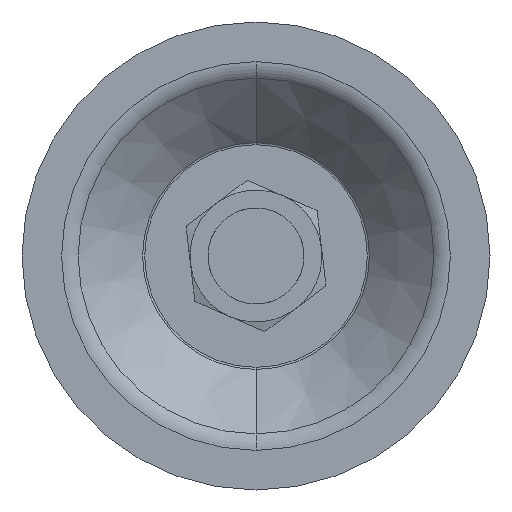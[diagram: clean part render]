
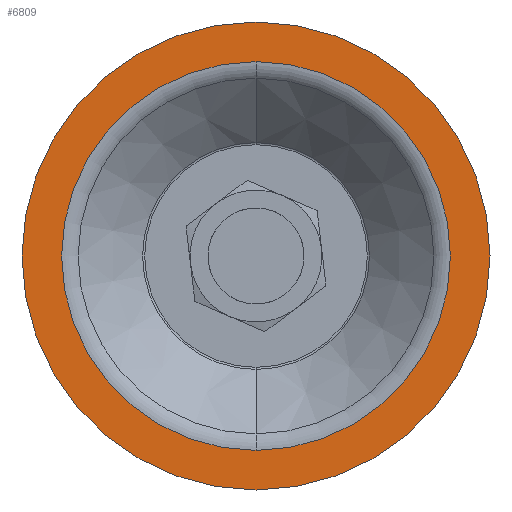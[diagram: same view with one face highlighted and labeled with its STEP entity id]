
A CAD part, front view. The second image highlights one B-rep face of the part: STEP entity #6809.
In plain terms, the highlighted planar face has unit normal (0, -1, 0).
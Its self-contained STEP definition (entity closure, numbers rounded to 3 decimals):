
#86 = VERTEX_POINT ( 'NONE', #5394 ) ;
#138 = DIRECTION ( 'NONE',  ( 0., 0., 1. ) ) ;
#216 = PLANE ( 'NONE',  #7204 ) ;
#451 = EDGE_CURVE ( 'NONE', #86, #1538, #1650, .T. ) ;
#463 = VERTEX_POINT ( 'NONE', #1590 ) ;
#834 = CARTESIAN_POINT ( 'NONE',  ( 0., 0., 0. ) ) ;
#959 = AXIS2_PLACEMENT_3D ( 'NONE', #4967, #6277, #138 ) ;
#1538 = VERTEX_POINT ( 'NONE', #4410 ) ;
#1590 = CARTESIAN_POINT ( 'NONE',  ( 0., 0., -39. ) ) ;
#1650 = CIRCLE ( 'NONE', #2678, 32.401 ) ;
#1736 = CARTESIAN_POINT ( 'NONE',  ( 0., 0., 0. ) ) ;
#2021 = EDGE_LOOP ( 'NONE', ( #3762, #5271 ) ) ;
#2286 = DIRECTION ( 'NONE',  ( 0., 1., 0. ) ) ;
#2678 = AXIS2_PLACEMENT_3D ( 'NONE', #4589, #2810, #7604 ) ;
#2810 = DIRECTION ( 'NONE',  ( 0., 1., 0. ) ) ;
#2890 = CIRCLE ( 'NONE', #959, 32.401 ) ;
#3117 = EDGE_LOOP ( 'NONE', ( #6961, #4525 ) ) ;
#3236 = CARTESIAN_POINT ( 'NONE',  ( 0., 0., 39. ) ) ;
#3470 = CIRCLE ( 'NONE', #4922, 39. ) ;
#3591 = DIRECTION ( 'NONE',  ( 0., 1., 0. ) ) ;
#3713 = EDGE_CURVE ( 'NONE', #463, #6294, #6034, .T. ) ;
#3762 = ORIENTED_EDGE ( 'NONE', *, *, #6894, .F. ) ;
#3836 = DIRECTION ( 'NONE',  ( 0., 1., 0. ) ) ;
#4303 = FACE_OUTER_BOUND ( 'NONE', #2021, .T. ) ;
#4410 = CARTESIAN_POINT ( 'NONE',  ( 0., 0., 32.401 ) ) ;
#4525 = ORIENTED_EDGE ( 'NONE', *, *, #451, .T. ) ;
#4589 = CARTESIAN_POINT ( 'NONE',  ( 0., 0., 0. ) ) ;
#4922 = AXIS2_PLACEMENT_3D ( 'NONE', #1736, #3591, #7817 ) ;
#4967 = CARTESIAN_POINT ( 'NONE',  ( 0., 0., 0. ) ) ;
#5271 = ORIENTED_EDGE ( 'NONE', *, *, #3713, .F. ) ;
#5394 = CARTESIAN_POINT ( 'NONE',  ( 0., 0., -32.401 ) ) ;
#5914 = FACE_BOUND ( 'NONE', #3117, .T. ) ;
#6034 = CIRCLE ( 'NONE', #6179, 39. ) ;
#6179 = AXIS2_PLACEMENT_3D ( 'NONE', #834, #3836, #6346 ) ;
#6277 = DIRECTION ( 'NONE',  ( 0., 1., 0. ) ) ;
#6294 = VERTEX_POINT ( 'NONE', #3236 ) ;
#6346 = DIRECTION ( 'NONE',  ( 0., 0., 1. ) ) ;
#6463 = CARTESIAN_POINT ( 'NONE',  ( 39., 0., 0. ) ) ;
#6552 = EDGE_CURVE ( 'NONE', #1538, #86, #2890, .T. ) ;
#6809 = ADVANCED_FACE ( 'NONE', ( #4303, #5914 ), #216, .F. ) ;
#6894 = EDGE_CURVE ( 'NONE', #6294, #463, #3470, .T. ) ;
#6961 = ORIENTED_EDGE ( 'NONE', *, *, #6552, .T. ) ;
#7071 = DIRECTION ( 'NONE',  ( 0., 0., 1. ) ) ;
#7204 = AXIS2_PLACEMENT_3D ( 'NONE', #6463, #2286, #7071 ) ;
#7604 = DIRECTION ( 'NONE',  ( 0., 0., 1. ) ) ;
#7817 = DIRECTION ( 'NONE',  ( 0., 0., 1. ) ) ;
